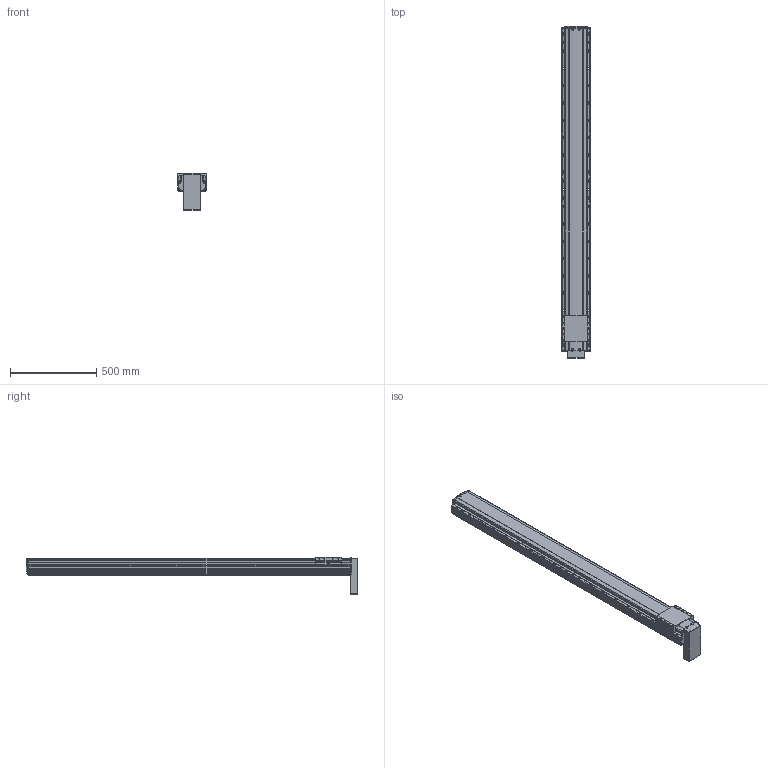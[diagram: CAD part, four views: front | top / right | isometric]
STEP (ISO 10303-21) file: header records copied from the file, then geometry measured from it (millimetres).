
FILE_DESCRIPTION(('STEP AP214'),'1');
FILE_NAME('Z:/Web/3D/PSA165/STP/PSA165-1600 (3D)/PSA165ㅁㅁ-1600PB.stp','2014-06-24T11:16:26',(' '),(' '),'Spatial InterOp 3D',' ',' ');
FILE_SCHEMA(('automotive_design'));
Length unit declared in the file: millimetre
Products named in the file (29): 스크루 : Round - M4.0 x 12.0; RRCV-PA160; BASE; 스크루 : Round - M4.0 x 10.0; RN15; Screw 20; SLIDE; FRCV; MTPL CV- PB; 스크루 : Round - M3.0 x 6.0; 1; 2
Bounding box: 165 x 1920.8 x 215.96 mm (x, y, z)
Volume: 26563613.6 mm3; surface area: 1566072.2 mm2
Topology: 29 solids, 29 shells, 2399 faces, 6456 edges, 4096 vertices
Faces by surface type: plane 1214, cylinder 838, cone 254, sphere 52, bspline 25, torus 16
Entity records: 97865 total; most frequent: CARTESIAN_POINT 17670, DIRECTION 12827, ORIENTED_EDGE 12540, EDGE_CURVE 6270, AXIS2_PLACEMENT_3D 4433, VERTEX_POINT 4096, LINE 3961, VECTOR 3961
